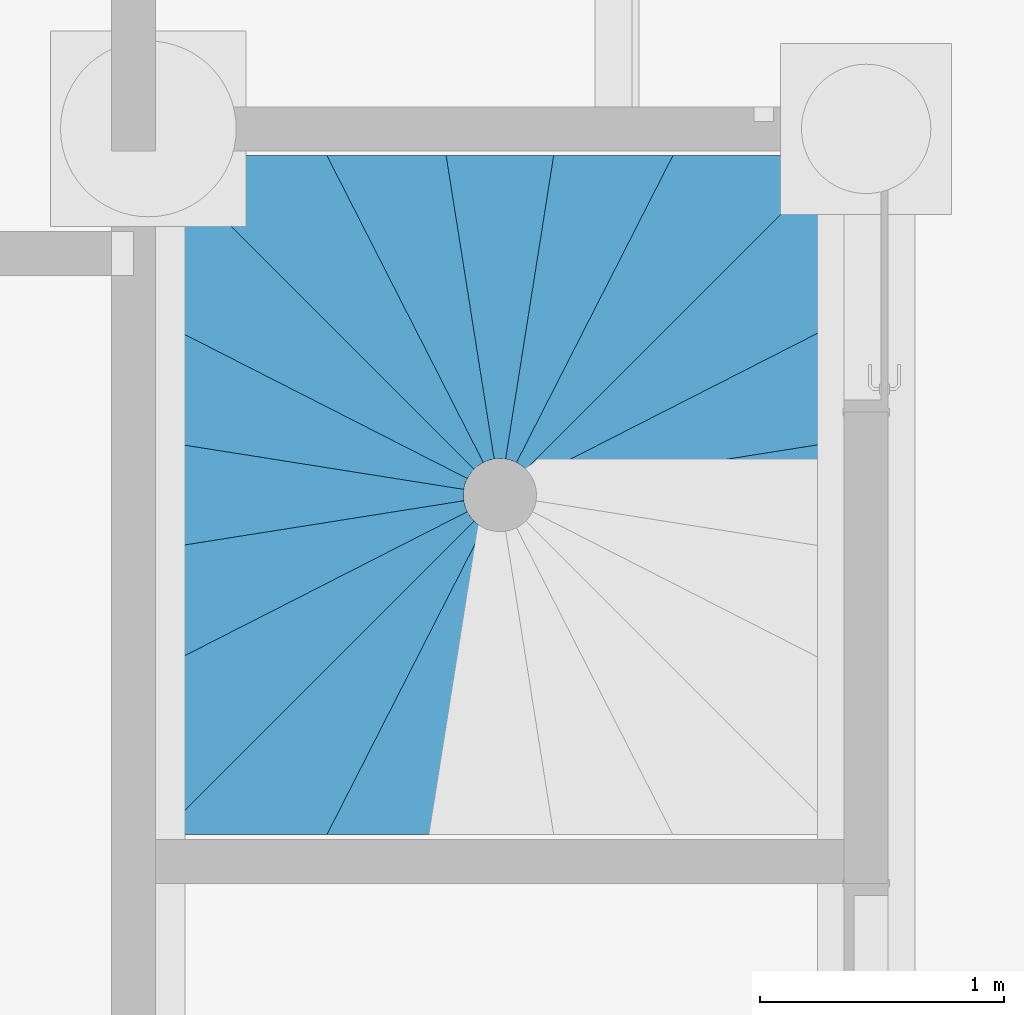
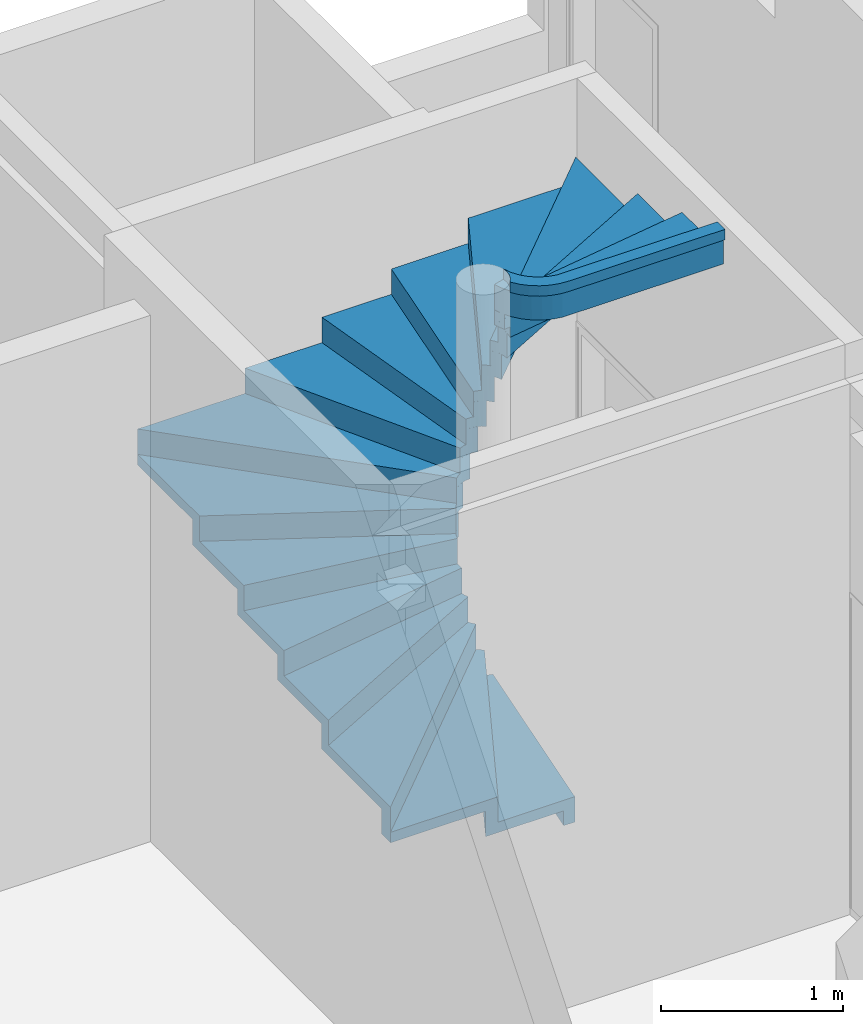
# One storey, part 17 of 29: 1 stair, 1 element without a shape of its own.
"""IFC2X3 building model written with IfcOpenShell, lengths in centimetres."""

from ifc_helpers import new_model, entity, si_unit, converted_unit, derived_unit, direction, frame, origin, place, context, subcontext, project, spatial, faceted_brep, material, element, aggregate, save


model = new_model("IFC2X3")

# Units and contexts
model_context = context("Model", 3, precision=0.001, world=origin(), true_north=direction((6.12303176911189e-17, 1.0)))
body_context = subcontext(model_context, "Body", "Model", "MODEL_VIEW")
ifc_project = project(units=[si_unit("LENGTHUNIT", "METRE", prefix="CENTI"), si_unit("AREAUNIT", "SQUARE_METRE"), si_unit("VOLUMEUNIT", "CUBIC_METRE"), converted_unit("PLANEANGLEUNIT", "DEGREE", entity("IfcRatioMeasure", 0.0174532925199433), si_unit("PLANEANGLEUNIT", "RADIAN"), dimensions=[0, 0, 0, 0, 0, 0, 0]), si_unit("MASSUNIT", "GRAM", prefix="KILO"), derived_unit("MASSDENSITYUNIT", [(si_unit("MASSUNIT", "GRAM", prefix="KILO"), 1), (si_unit("LENGTHUNIT", "METRE"), -3)]), si_unit("TIMEUNIT", "SECOND"), si_unit("FREQUENCYUNIT", "HERTZ"), si_unit("THERMODYNAMICTEMPERATUREUNIT", "DEGREE_CELSIUS"), derived_unit("THERMALTRANSMITTANCEUNIT", [(si_unit("MASSUNIT", "GRAM", prefix="KILO"), 1), (si_unit("THERMODYNAMICTEMPERATUREUNIT", "KELVIN"), -1), (si_unit("TIMEUNIT", "SECOND"), -3)]), derived_unit("VOLUMETRICFLOWRATEUNIT", [(si_unit("LENGTHUNIT", "METRE"), 3), (si_unit("TIMEUNIT", "SECOND"), -1)]), si_unit("ELECTRICCURRENTUNIT", "AMPERE"), si_unit("ELECTRICVOLTAGEUNIT", "VOLT"), si_unit("POWERUNIT", "WATT"), si_unit("FORCEUNIT", "NEWTON"), si_unit("ILLUMINANCEUNIT", "LUX"), si_unit("LUMINOUSFLUXUNIT", "LUMEN"), si_unit("LUMINOUSINTENSITYUNIT", "CANDELA"), derived_unit("USERDEFINED", [(si_unit("MASSUNIT", "GRAM", prefix="KILO"), -1), (si_unit("LENGTHUNIT", "METRE"), -2), (si_unit("TIMEUNIT", "SECOND"), 3), (si_unit("LUMINOUSFLUXUNIT", "LUMEN"), 1)]), derived_unit("LINEARVELOCITYUNIT", [(si_unit("LENGTHUNIT", "METRE"), 1), (si_unit("TIMEUNIT", "SECOND"), -1)]), si_unit("PRESSUREUNIT", "PASCAL"), derived_unit("USERDEFINED", [(si_unit("LENGTHUNIT", "METRE"), -2), (si_unit("MASSUNIT", "GRAM", prefix="KILO"), 1), (si_unit("TIMEUNIT", "SECOND"), -2)])], contexts=[model_context])

# Site, building, storey
site_placement = place(None, origin())
site = spatial("IfcSite", under=ifc_project, at=site_placement, Name="Default", CompositionType="ELEMENT")
building_placement = place(site_placement, origin())
building = spatial("IfcBuilding", under=site, at=building_placement, Name="CAGE 03", CompositionType="ELEMENT")
storey_placement = place(building_placement, frame((0.0, 0.0, -34.0)))
storey = spatial("IfcBuildingStorey", under=building, at=storey_placement, Name="+3.66", CompositionType="ELEMENT", Elevation=-34.0000000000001)

# Stairs
stair_1_placement = place(storey_placement, frame((3674.36582014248, 4652.66066607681, 102.0)))
stair_1 = element("IfcStair", 1, at=stair_1_placement, inside=storey, Name="Escalier:Monobloc-générique", ObjectType="Escalier:Monobloc-générique", ShapeType="NOTDEFINED")
ifc_material = material(Name="Béton, C25/30")
stair_2_placement = place(stair_1_placement, origin())
stair_2 = element("IfcStair", 2, at=stair_2_placement, material=ifc_material, Name="Escalier:Monobloc-générique", ObjectType="Escalier:Monobloc-générique", ShapeType="NOTDEFINED", context=body_context, shape_type="Brep", body=[
    faceted_brep([(126.73805787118, 130.360279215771, 17.0), (60.3161780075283, 0.0, 17.0), (116.98106104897, 0.0, 17.0), (136.650067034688, 124.1852163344, 17.0), (133.754783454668, 124.946968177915, 17.0), (131.06844442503, 126.268526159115, 17.0), (128.698060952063, 128.09724567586, 17.0), (133.754783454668, 124.946968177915, 10.0), (136.650067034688, 124.1852163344, 10.0), (116.98106104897, 0.0, 10.0), (60.3161780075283, 0.0, 10.0), (126.73805787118, 130.360279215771, 10.0), (128.698060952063, 128.09724567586, 10.0), (131.06844442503, 126.268526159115, 10.0)], [[[0, 1, 2, 3, 4, 5, 6]], [[7, 8, 9, 10, 11, 12, 13]], [[2, 1, 10, 9]], [[8, 7, 4, 3]], [[5, 4, 7, 13]], [[11, 0, 6, 12]], [[12, 6, 5, 13]], [[3, 2, 9, 8]], [[1, 0, 11, 10]]]),
    faceted_brep([(125.833440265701, 131.813783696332, 34.0), (124.668594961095, 134.571588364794, 34.0), (0.0, 9.90299340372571, 34.0), (0.0, 0.0, 34.0), (68.1724616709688, 0.0, 34.0), (132.187363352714, 125.636318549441, 34.0), (129.669219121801, 127.255361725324, 34.0), (127.522744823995, 129.342225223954, 34.0), (0.0, 0.0, 27.0), (0.0, 9.90299340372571, 27.0), (124.668594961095, 134.571588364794, 27.0), (125.833440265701, 131.813783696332, 27.0), (127.522744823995, 129.342225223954, 27.0), (129.669219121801, 127.255361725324, 27.0), (132.187363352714, 125.636318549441, 27.0), (68.1724616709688, 0.0, 27.0)], [[[0, 1, 2, 3, 4, 5, 6, 7]], [[8, 9, 10, 11, 12, 13, 14, 15]], [[4, 3, 8, 15]], [[14, 13, 6, 5]], [[7, 6, 13, 12]], [[11, 10, 1, 0]], [[11, 0, 7, 12]], [[5, 4, 15, 14]], [[2, 1, 10, 9]], [[3, 2, 9, 8]]]),
    faceted_brep([(124.257363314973, 136.233293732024, 51.0), (124.001554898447, 139.215973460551, 51.0), (0.0, 76.0340254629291, 51.0), (0.0, 0.003498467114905, 51.0), (128.3916491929, 128.395147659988, 51.0), (126.497013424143, 130.712942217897, 51.0), (125.100375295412, 133.360812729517, 51.0), (0.0, 0.003498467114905, 44.0), (0.0, 76.0340254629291, 44.0), (124.001554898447, 139.215973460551, 44.0), (124.257363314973, 136.233293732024, 44.0), (125.100375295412, 133.360812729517, 44.0), (126.497013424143, 130.712942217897, 44.0), (128.3916491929, 128.395147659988, 44.0)], [[[0, 1, 2, 3, 4, 5, 6]], [[7, 8, 9, 10, 11, 12, 13]], [[13, 12, 5, 4]], [[6, 5, 12, 11]], [[10, 9, 1, 0]], [[10, 0, 6, 11]], [[4, 3, 7, 13]], [[3, 2, 8, 7]], [[2, 1, 9, 8]]]),
    faceted_brep([(124.12644320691, 140.943529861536, 68.0), (124.810773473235, 143.864755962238, 68.0), (0.0, 124.09667145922, 68.0), (0.0, 68.1777417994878, 68.0), (125.634182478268, 132.191555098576, 68.0), (124.546551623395, 134.987789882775, 68.0), (124.037178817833, 137.944546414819, 68.0), (0.0, 68.1777417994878, 61.0), (0.0, 124.09667145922, 61.0), (124.810773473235, 143.864755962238, 61.0), (124.12644320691, 140.943529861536, 61.0), (124.037178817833, 137.944546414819, 61.0), (124.546551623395, 134.987789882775, 61.0), (125.634182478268, 132.191555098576, 61.0)], [[[0, 1, 2, 3, 4, 5, 6]], [[7, 8, 9, 10, 11, 12, 13]], [[3, 2, 8, 7]], [[13, 12, 5, 4]], [[6, 5, 12, 11]], [[10, 9, 1, 0]], [[10, 0, 6, 11]], [[4, 3, 7, 13]], [[2, 1, 9, 8]]]),
    faceted_brep([(0.0, 168.102128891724, 85.0), (0.0, 117.009415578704, 85.0), (124.180854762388, 136.677730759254, 85.0), (124.014554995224, 139.660634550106, 85.0), (124.442702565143, 142.617332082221, 85.0), (125.448313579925, 145.430536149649, 85.0), (126.991497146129, 147.988651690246, 85.0), (0.0, 117.009415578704, 78.0), (0.0, 168.102128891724, 78.0), (126.991497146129, 147.988651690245, 78.0), (125.448313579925, 145.430536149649, 78.0), (124.442702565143, 142.617332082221, 78.0), (124.014554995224, 139.660634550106, 78.0), (124.180854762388, 136.677730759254, 78.0)], [[[0, 1, 2, 3, 4, 5, 6]], [[7, 8, 9, 10, 11, 12, 13]], [[1, 0, 8, 7]], [[13, 12, 3, 2]], [[4, 3, 12, 11]], [[10, 9, 6, 5]], [[10, 5, 4, 11]], [[2, 1, 7, 13]], [[0, 6, 9, 8]]]),
    faceted_brep([(130.355916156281, 151.25886677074, 102.0), (0.0, 217.678523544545, 102.0), (0.0, 161.014873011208, 102.0), (124.184587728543, 141.345966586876, 102.0), (124.945448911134, 144.241144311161, 102.0), (126.266053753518, 146.927585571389, 102.0), (128.093807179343, 149.29829879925, 102.0), (124.945448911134, 144.241144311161, 95.0), (124.184587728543, 141.345966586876, 95.0), (0.0, 161.014873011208, 95.0), (0.0, 217.678523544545, 95.0), (130.355916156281, 151.25886677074, 95.0), (128.093807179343, 149.29829879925, 95.0), (126.266053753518, 146.927585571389, 95.0)], [[[0, 1, 2, 3, 4, 5, 6]], [[7, 8, 9, 10, 11, 12, 13]], [[2, 1, 10, 9]], [[8, 7, 4, 3]], [[5, 4, 7, 13]], [[12, 11, 0, 6]], [[12, 6, 5, 13]], [[3, 2, 9, 8]], [[1, 0, 11, 10]]]),
    faceted_brep([(131.810906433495, 152.164988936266, 119.0), (134.568915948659, 153.330578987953, 119.0), (9.89949493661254, 278.0, 119.0), (0.0, 278.0, 119.0), (0.0, 209.822239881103, 119.0), (125.634175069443, 145.808430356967, 119.0), (127.252724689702, 148.327460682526, 119.0), (129.339349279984, 150.474834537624, 119.0), (0.0, 278.0, 112.0), (9.89949493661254, 278.0, 112.0), (134.568915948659, 153.330578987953, 112.0), (131.810906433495, 152.164988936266, 112.0), (129.339349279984, 150.474834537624, 112.0), (127.252724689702, 148.327460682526, 112.0), (125.634175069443, 145.808430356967, 112.0), (0.0, 209.822239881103, 112.0)], [[[0, 1, 2, 3, 4, 5, 6, 7]], [[8, 9, 10, 11, 12, 13, 14, 15]], [[4, 3, 8, 15]], [[14, 13, 6, 5]], [[7, 6, 13, 12]], [[11, 10, 1, 0]], [[0, 7, 12, 11]], [[5, 4, 15, 14]], [[3, 2, 9, 8]], [[2, 1, 10, 9]]]),
    faceted_brep([(136.22875146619, 153.741783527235, 136.0), (139.210636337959, 153.998521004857, 136.0), (76.0287270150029, 278.0, 136.0), (0.0, 278.0, 136.0), (128.393398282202, 149.606601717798, 136.0), (130.710283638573, 151.501224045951, 136.0), (133.357193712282, 152.898155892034, 136.0), (0.0, 278.0, 129.0), (76.0287270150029, 278.0, 129.0), (139.210636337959, 153.998521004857, 129.0), (136.22875146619, 153.741783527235, 129.0), (133.357193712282, 152.898155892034, 129.0), (130.710283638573, 151.501224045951, 129.0), (128.393398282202, 149.606601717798, 129.0)], [[[0, 1, 2, 3, 4, 5, 6]], [[7, 8, 9, 10, 11, 12, 13]], [[13, 12, 5, 4]], [[6, 5, 12, 11]], [[10, 9, 1, 0]], [[0, 6, 11, 10]], [[3, 2, 8, 7]], [[2, 1, 9, 8]], [[4, 3, 7, 13]]]),
    faceted_brep([(140.918784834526, 153.876769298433, 153.0), (143.834761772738, 153.199474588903, 153.0), (124.068300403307, 278.0, 153.0), (68.1724433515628, 278.0, 153.0), (132.18734881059, 152.363674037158, 153.0), (134.976743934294, 153.45037752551, 153.0), (137.926383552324, 153.961528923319, 153.0), (68.1724433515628, 278.0, 146.0), (124.068300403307, 278.0, 146.0), (143.834761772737, 153.199474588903, 146.0), (140.918784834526, 153.876769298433, 146.0), (137.926383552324, 153.961528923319, 146.0), (134.976743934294, 153.45037752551, 146.0), (132.18734881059, 152.363674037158, 146.0)], [[[0, 1, 2, 3, 4, 5, 6]], [[7, 8, 9, 10, 11, 12, 13]], [[3, 2, 8, 7]], [[13, 12, 5, 4]], [[6, 5, 12, 11]], [[9, 1, 0, 10]], [[0, 6, 11, 10]], [[4, 3, 7, 13]], [[2, 1, 9, 8]]]),
    faceted_brep([(168.09917481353, 278.0, 170.0), (116.981044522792, 278.0, 170.0), (136.650050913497, 153.814781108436, 170.0), (139.638814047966, 153.986391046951, 170.0), (142.602132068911, 153.561066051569, 170.0), (145.421970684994, 152.555747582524, 170.0), (147.986010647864, 151.010479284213, 170.0), (116.981044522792, 278.0, 163.0), (168.09917481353, 278.0, 163.0), (147.986010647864, 151.010479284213, 163.0), (145.421970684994, 152.555747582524, 163.0), (142.602132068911, 153.561066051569, 163.0), (139.638814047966, 153.986391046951, 163.0), (136.650050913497, 153.814781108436, 163.0)], [[[0, 1, 2, 3, 4, 5, 6]], [[7, 8, 9, 10, 11, 12, 13]], [[1, 0, 8, 7]], [[13, 12, 3, 2]], [[4, 3, 12, 11]], [[9, 6, 5, 10]], [[5, 4, 11, 10]], [[2, 1, 7, 13]], [[0, 6, 9, 8]]]),
    faceted_brep([(151.25786731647, 147.645501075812, 187.0), (217.676801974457, 278.0, 187.0), (161.011918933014, 278.0, 187.0), (141.343084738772, 153.815868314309, 187.0), (144.238687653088, 153.055466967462, 187.0), (146.925610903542, 151.735175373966, 187.0), (149.29682267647, 149.90758647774, 187.0), (144.238687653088, 153.055466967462, 180.0), (141.343084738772, 153.815868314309, 180.0), (161.011918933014, 278.0, 180.0), (217.676801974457, 278.0, 180.0), (151.257867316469, 147.645501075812, 180.0), (149.29682267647, 149.90758647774, 180.0), (146.925610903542, 151.735175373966, 180.0)], [[[0, 1, 2, 3, 4, 5, 6]], [[7, 8, 9, 10, 11, 12, 13]], [[2, 1, 10, 9]], [[8, 7, 4, 3]], [[5, 4, 7, 13]], [[11, 0, 6, 12]], [[6, 5, 13, 12]], [[3, 2, 9, 8]], [[1, 0, 11, 10]]]),
    faceted_brep([(287.895973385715, 278.0, 204.0), (209.820518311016, 278.0, 204.0), (145.807063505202, 152.366521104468, 204.0), (148.326008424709, 150.748428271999, 204.0), (150.473433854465, 148.662314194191, 204.0), (152.163792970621, 146.19128323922, 204.0), (153.329747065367, 143.433773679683, 204.0), (148.326008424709, 150.748428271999, 197.0), (145.807063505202, 152.366521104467, 197.0), (209.820518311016, 278.0, 197.0), (287.895973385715, 278.0, 197.0), (153.329747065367, 143.433773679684, 197.0), (152.163792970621, 146.19128323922, 197.0), (150.473433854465, 148.662314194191, 197.0)], [[[0, 1, 2, 3, 4, 5, 6]], [[7, 8, 9, 10, 11, 12, 13]], [[1, 0, 10, 9]], [[8, 7, 3, 2]], [[4, 3, 7, 13]], [[11, 6, 5, 12]], [[13, 12, 5, 4]], [[2, 1, 9, 8]], [[0, 6, 11, 10]]]),
    faceted_brep([(153.74190879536, 141.770582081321, 221.0), (153.998496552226, 138.78762963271, 221.0), (278.0, 201.969551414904, 221.0), (278.0, 278.003521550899, 221.0), (149.604840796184, 149.608362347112, 221.0), (151.500431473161, 147.290911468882, 221.0), (152.89801370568, 144.643156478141, 221.0), (278.0, 278.003521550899, 214.0), (278.0, 201.969551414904, 214.0), (153.998496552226, 138.78762963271, 214.0), (153.74190879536, 141.770582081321, 214.0), (152.89801370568, 144.643156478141, 214.0), (151.500431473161, 147.290911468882, 214.0), (149.604840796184, 149.608362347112, 214.0)], [[[0, 1, 2, 3, 4, 5, 6]], [[7, 8, 9, 10, 11, 12, 13]], [[3, 2, 8, 7]], [[13, 12, 5, 4]], [[6, 5, 12, 11]], [[9, 1, 0, 10]], [[11, 10, 0, 6]], [[4, 3, 7, 13]], [[2, 1, 9, 8]]]),
    faceted_brep([(153.87378070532, 137.058184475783, 238.0), (153.189629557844, 134.136419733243, 238.0), (278.0, 153.904440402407, 238.0), (278.0, 209.825835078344, 238.0), (152.364370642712, 145.811284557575, 238.0), (153.452725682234, 143.014812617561, 238.0), (153.962665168, 140.05766302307, 238.0), (278.0, 209.825835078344, 231.0), (278.0, 153.904440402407, 231.0), (153.189629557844, 134.136419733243, 231.0), (153.87378070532, 137.058184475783, 231.0), (153.962665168, 140.05766302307, 231.0), (153.452725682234, 143.014812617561, 231.0), (152.364370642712, 145.811284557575, 231.0)], [[[0, 1, 2, 3, 4, 5, 6]], [[7, 8, 9, 10, 11, 12, 13]], [[3, 2, 8, 7]], [[13, 12, 5, 4]], [[6, 5, 12, 11]], [[9, 1, 0, 10]], [[11, 10, 0, 6]], [[4, 3, 7, 13]], [[2, 1, 9, 8]]]),
    faceted_brep([(146.931732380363, 140.232522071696, 255.0), (148.922179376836, 134.81848854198, 255.0), (151.796820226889, 129.817480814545, 255.0), (155.47337428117, 125.372642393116, 255.0), (159.846607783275, 121.611197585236, 255.0), (164.791345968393, 118.64080996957, 255.0), (170.166055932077, 116.546500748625, 255.0), (175.816897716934, 115.388215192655, 255.0), (278.0, 115.388215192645, 255.0), (278.0, 160.991696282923, 255.0), (146.931732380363, 140.232522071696, 248.0), (278.0, 160.991696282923, 248.0), (278.0, 115.388215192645, 248.0), (175.816897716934, 115.388215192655, 248.0), (170.166055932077, 116.546500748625, 248.0), (164.791345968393, 118.64080996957, 248.0), (159.846607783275, 121.611197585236, 248.0), (155.47337428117, 125.372642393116, 248.0), (151.796820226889, 129.817480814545, 248.0), (148.922179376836, 134.81848854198, 248.0)], [[[0, 1, 2, 3, 4, 5, 6, 7, 8, 9]], [[10, 11, 12, 13, 14, 15, 16, 17, 18, 19]], [[9, 8, 12, 11]], [[0, 9, 11, 10]], [[1, 0, 10, 19]], [[18, 17, 3, 2]], [[1, 19, 18, 2]], [[17, 16, 4, 3]], [[4, 16, 15, 5]], [[5, 15, 14, 6]], [[6, 14, 13, 7]], [[8, 7, 13, 12]]]),
    faceted_brep([(178.92758269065, 114.005850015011, 272.0), (278.0, 114.005850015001, 272.0), (278.0, 122.388215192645, 272.0), (176.252275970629, 122.388215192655, 272.0), (171.101498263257, 123.59191749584, 272.0), (166.282738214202, 125.773421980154, 272.0), (161.979645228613, 128.849588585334, 272.0), (158.356215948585, 132.703180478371, 272.0), (155.550544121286, 137.187332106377, 272.0), (153.669557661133, 142.131146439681, 272.0), (153.998064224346, 138.759023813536, 272.0), (153.561394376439, 135.399195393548, 272.0), (152.381826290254, 132.223074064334, 272.0), (150.519539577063, 129.392700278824, 272.0), (153.959806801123, 124.966638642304, 272.0), (158.082113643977, 121.167685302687, 272.0), (162.77385189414, 118.099615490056, 272.0), (167.906858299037, 115.846239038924, 272.0), (173.340915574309, 114.469110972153, 272.0), (155.550544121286, 137.187332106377, 265.0), (158.356215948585, 132.703180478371, 265.0), (161.979645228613, 128.849588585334, 265.0), (166.282738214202, 125.773421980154, 265.0), (171.101498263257, 123.59191749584, 265.0), (176.252275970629, 122.388215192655, 265.0), (278.0, 122.388215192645, 265.0), (278.0, 114.005850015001, 265.0), (178.92758269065, 114.00585001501, 265.0), (173.340915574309, 114.469110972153, 265.0), (167.906858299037, 115.846239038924, 265.0), (162.77385189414, 118.099615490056, 265.0), (158.082113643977, 121.167685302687, 265.0), (153.959806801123, 124.966638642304, 265.0), (150.519539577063, 129.392700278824, 265.0), (152.381826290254, 132.223074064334, 265.0), (153.561394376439, 135.399195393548, 265.0), (153.998064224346, 138.759023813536, 265.0), (153.669557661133, 142.13114643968, 265.0)], [[[0, 1, 2, 3, 4, 5, 6, 7, 8, 9, 10, 11, 12, 13, 14, 15, 16, 17, 18]], [[19, 20, 21, 22, 23, 24, 25, 26, 27, 28, 29, 30, 31, 32, 33, 34, 35, 36, 37]], [[2, 1, 26, 25]], [[4, 3, 24, 23]], [[5, 4, 23, 22]], [[21, 6, 5, 22]], [[8, 7, 20, 19]], [[9, 8, 19, 37]], [[20, 7, 6, 21]], [[3, 2, 25, 24]], [[37, 36, 10, 9]], [[11, 10, 36, 35]], [[33, 13, 12, 34]], [[35, 34, 12, 11]], [[33, 32, 14, 13]], [[31, 15, 14, 32]], [[16, 15, 31, 30]], [[17, 29, 28, 18]], [[18, 28, 27, 0]], [[16, 30, 29, 17]], [[1, 0, 27, 26]]]),
    faceted_brep([(136.650067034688, 124.1852163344, 0.0), (133.157559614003, 125.184577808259, 0.0), (133.157559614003, 125.184577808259, 10.0), (136.650067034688, 124.1852163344, 10.0), (130.007713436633, 126.99421879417, 0.0), (130.007713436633, 126.99421879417, 10.0), (116.98106104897, 0.0, 10.0), (109.893805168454, 0.0, 10.0), (109.893805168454, 0.0, 0.0), (116.98106104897, 0.0, 0.0)], [[[0, 1, 2, 3]], [[4, 5, 2, 1]], [[6, 7, 8, 9]], [[0, 3, 6, 9]], [[4, 1, 0, 9, 8]], [[5, 4, 8, 7]], [[2, 5, 7, 6, 3]]]),
    faceted_brep([(132.187363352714, 125.636318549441, 17.0), (129.174581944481, 127.665929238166, 17.0), (129.174581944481, 127.665929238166, 27.0), (132.187363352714, 125.636318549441, 27.0), (126.73805787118, 130.360279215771, 17.0), (126.73805787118, 130.360279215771, 27.0), (68.1724616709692, 0.0, 27.0), (60.3161780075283, 0.0, 27.0), (60.3161780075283, 0.0, 17.0), (68.1724616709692, 0.0, 17.0)], [[[0, 1, 2, 3]], [[4, 5, 2, 1]], [[6, 7, 8, 9]], [[0, 3, 6, 9]], [[4, 1, 0, 9, 8]], [[5, 4, 8, 7]], [[2, 5, 7, 6, 3]]]),
    faceted_brep([(128.3916491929, 128.395147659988, 34.0), (126.15340666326, 131.256290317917, 34.0), (126.15340666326, 131.256290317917, 44.0), (128.3916491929, 128.395147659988, 44.0), (124.668594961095, 134.571588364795, 34.0), (124.668594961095, 134.571588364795, 44.0), (0.0, 9.90299340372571, 44.0), (0.0, 9.90299340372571, 34.0), (0.0, 0.003498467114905, 34.0), (0.0, 0.003498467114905, 44.0)], [[[0, 1, 2, 3]], [[4, 5, 2, 1]], [[6, 7, 8, 9]], [[0, 3, 9, 8]], [[4, 1, 0, 8, 7]], [[5, 4, 7, 6]], [[2, 5, 6, 9, 3]]]),
    faceted_brep([(125.634182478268, 132.191555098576, 51.0), (124.38944005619, 135.604188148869, 51.0), (124.38944005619, 135.604188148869, 61.0), (125.634182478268, 132.191555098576, 61.0), (124.001554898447, 139.215973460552, 51.0), (124.001554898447, 139.215973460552, 61.0), (0.0, 76.0340254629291, 61.0), (0.0, 76.0340254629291, 51.0), (0.0, 68.1777417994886, 51.0), (0.0, 68.1777417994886, 61.0)], [[[0, 1, 2, 3]], [[4, 5, 2, 1]], [[6, 7, 8, 9]], [[0, 3, 9, 8]], [[4, 1, 0, 8, 7]], [[5, 4, 7, 6]], [[2, 5, 6, 9, 3]]]),
    faceted_brep([(124.180854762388, 136.677730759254, 68.0), (124.057284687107, 140.309678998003, 68.0), (124.057284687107, 140.309678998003, 78.0), (124.180854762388, 136.677730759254, 78.0), (124.810773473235, 143.864755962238, 68.0), (124.810773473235, 143.864755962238, 78.0), (0.0, 124.09667145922, 78.0), (0.0, 124.09667145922, 68.0), (0.0, 117.009415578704, 68.0), (0.0, 117.009415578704, 78.0)], [[[0, 1, 2, 3]], [[4, 5, 2, 1]], [[6, 7, 8, 9]], [[0, 3, 9, 8]], [[4, 1, 0, 8, 7]], [[5, 4, 7, 6]], [[2, 5, 6, 9, 3]]]),
    faceted_brep([(124.184587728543, 141.345966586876, 85.0), (125.182911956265, 144.838499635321, 85.0), (125.182911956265, 144.838499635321, 95.0), (124.184587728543, 141.345966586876, 95.0), (126.991497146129, 147.988651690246, 85.0), (126.991497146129, 147.988651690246, 95.0), (0.0, 168.102128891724, 95.0), (0.0, 168.102128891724, 85.0), (0.0, 161.014873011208, 85.0), (0.0, 161.014873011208, 95.0)], [[[0, 1, 2, 3]], [[4, 5, 2, 1]], [[6, 7, 8, 9]], [[0, 3, 9, 8]], [[4, 1, 0, 8, 7]], [[5, 4, 7, 6]], [[2, 5, 6, 9, 3]]]),
    faceted_brep([(125.634175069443, 145.808430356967, 102.0), (127.662635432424, 148.821617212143, 102.0), (127.662635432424, 148.821617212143, 112.0), (125.634175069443, 145.808430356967, 112.0), (130.355916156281, 151.25886677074, 102.0), (130.355916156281, 151.25886677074, 112.0), (0.0, 217.678523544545, 112.0), (0.0, 217.678523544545, 102.0), (0.0, 209.822239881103, 102.0), (0.0, 209.822239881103, 112.0)], [[[0, 1, 2, 3]], [[4, 5, 2, 1]], [[6, 7, 8, 9]], [[0, 3, 9, 8]], [[4, 1, 0, 8, 7]], [[5, 4, 7, 6]], [[2, 5, 6, 9, 3]]]),
    faceted_brep([(132.18734881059, 152.363674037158, 136.0), (135.599289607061, 153.609420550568, 136.0), (135.599289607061, 153.609420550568, 146.0), (132.18734881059, 152.363674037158, 146.0), (139.210636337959, 153.998521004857, 136.0), (139.210636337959, 153.998521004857, 146.0), (76.0287270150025, 278.0, 136.0), (68.1724433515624, 278.0, 136.0), (68.1724433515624, 278.0, 146.0), (76.0287270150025, 278.0, 146.0)], [[[0, 1, 2, 3]], [[4, 5, 2, 1]], [[6, 7, 8, 9]], [[0, 3, 8, 7]], [[4, 1, 0, 7, 6]], [[5, 4, 6, 9]], [[2, 5, 9, 8, 3]]]),
    faceted_brep([(136.650050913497, 153.814781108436, 153.0), (140.279931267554, 153.945292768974, 153.0), (140.279931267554, 153.945292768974, 163.0), (136.650050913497, 153.814781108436, 163.0), (143.834761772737, 153.199474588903, 153.0), (143.834761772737, 153.199474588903, 163.0), (124.068300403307, 278.0, 153.0), (116.981044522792, 278.0, 153.0), (116.981044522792, 278.0, 163.0), (124.068300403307, 278.0, 163.0)], [[[0, 1, 2, 3]], [[4, 5, 2, 1]], [[6, 7, 8, 9]], [[0, 3, 8, 7]], [[4, 1, 0, 7, 6]], [[5, 4, 6, 9]], [[2, 5, 9, 8, 3]]]),
    faceted_brep([(141.343084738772, 153.815868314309, 170.0), (144.835636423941, 152.818297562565, 170.0), (144.835636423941, 152.818297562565, 180.0), (141.343084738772, 153.815868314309, 180.0), (147.986010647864, 151.010479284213, 170.0), (147.986010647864, 151.010479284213, 180.0), (168.09917481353, 278.0, 170.0), (161.011918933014, 278.0, 170.0), (161.011918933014, 278.0, 180.0), (168.09917481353, 278.0, 180.0)], [[[0, 1, 2, 3]], [[4, 5, 2, 1]], [[6, 7, 8, 9]], [[0, 3, 8, 7]], [[4, 1, 0, 7, 6]], [[5, 4, 6, 9]], [[2, 5, 9, 8, 3]]]),
    faceted_brep([(145.807063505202, 152.366521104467, 187.0), (148.820382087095, 150.338434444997, 187.0), (148.820382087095, 150.338434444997, 197.0), (145.807063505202, 152.366521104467, 197.0), (151.25786731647, 147.645501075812, 187.0), (151.25786731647, 147.645501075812, 197.0), (217.676801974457, 278.0, 187.0), (209.820518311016, 278.0, 187.0), (209.820518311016, 278.0, 197.0), (217.676801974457, 278.0, 197.0)], [[[0, 1, 2, 3]], [[4, 5, 2, 1]], [[6, 7, 8, 9]], [[0, 3, 8, 7]], [[4, 1, 0, 7, 6]], [[5, 4, 6, 9]], [[2, 5, 9, 8, 3]]]),
    faceted_brep([(149.604840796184, 149.608362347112, 204.0), (151.843862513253, 146.748238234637, 204.0), (151.843862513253, 146.748238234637, 214.0), (149.604840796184, 149.608362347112, 214.0), (153.329747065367, 143.433773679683, 204.0), (153.329747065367, 143.433773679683, 214.0), (278.0, 268.104026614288, 214.0), (278.0, 268.104026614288, 204.0), (278.0, 278.003521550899, 204.0), (278.0, 278.003521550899, 214.0)], [[[0, 1, 2, 3]], [[4, 5, 2, 1]], [[6, 7, 8, 9]], [[0, 3, 9, 8]], [[4, 1, 0, 8, 7]], [[5, 4, 7, 6]], [[2, 5, 6, 9, 3]]]),
    faceted_brep([(152.364370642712, 145.811284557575, 221.0), (153.609790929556, 142.399118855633, 221.0), (153.609790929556, 142.399118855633, 231.0), (152.364370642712, 145.811284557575, 231.0), (153.998496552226, 138.78762963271, 221.0), (153.998496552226, 138.78762963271, 231.0), (278.0, 201.969551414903, 231.0), (278.0, 201.969551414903, 221.0), (278.0, 209.825835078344, 221.0), (278.0, 209.825835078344, 231.0)], [[[0, 1, 2, 3]], [[4, 5, 2, 1]], [[6, 7, 8, 9]], [[0, 3, 9, 8]], [[4, 1, 0, 8, 7]], [[5, 4, 7, 6]], [[2, 5, 6, 9, 3]]]),
    faceted_brep([(146.931732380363, 140.232522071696, 238.0), (148.061306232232, 136.826865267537, 238.0), (148.061306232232, 136.826865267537, 248.0), (146.931732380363, 140.232522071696, 248.0), (149.542531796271, 133.558776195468, 238.0), (149.542531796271, 133.558776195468, 248.0), (278.0, 153.904440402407, 248.0), (278.0, 153.904440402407, 238.0), (278.0, 160.991696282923, 238.0), (278.0, 160.991696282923, 248.0)], [[[0, 1, 2, 3]], [[2, 1, 4, 5]], [[6, 7, 8, 9]], [[0, 3, 9, 8]], [[1, 0, 8, 7, 4]], [[5, 4, 7, 6]], [[3, 2, 5, 6, 9]]]),
    faceted_brep([(153.669557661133, 142.131146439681, 265.0), (153.669557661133, 142.131146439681, 255.0), (146.915367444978, 140.292420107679, 255.0), (146.915367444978, 140.292420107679, 265.0), (155.550544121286, 137.187332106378, 255.0), (155.550544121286, 137.187332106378, 265.0), (158.356215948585, 132.703180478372, 255.0), (158.356215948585, 132.703180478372, 265.0), (161.979645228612, 128.849588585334, 255.0), (161.979645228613, 128.849588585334, 265.0), (171.101498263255, 123.591917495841, 255.0), (166.282738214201, 125.773421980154, 255.0), (166.282738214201, 125.773421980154, 265.0), (171.101498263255, 123.591917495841, 265.0), (176.252275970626, 122.388215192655, 255.0), (176.252275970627, 122.388215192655, 265.0), (176.13861118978, 120.638511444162, 255.0), (176.028345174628, 118.888595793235, 255.0), (170.157548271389, 116.549011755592, 255.0), (164.775421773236, 118.64863056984, 255.0), (278.0, 115.388215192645, 255.0), (278.0, 122.388215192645, 255.0), (175.921190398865, 117.138490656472, 255.0), (175.81689771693, 115.388215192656, 255.0), (159.825042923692, 121.626790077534, 255.0), (155.44854064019, 125.397985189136, 255.0), (151.771567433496, 129.853942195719, 255.0), (148.899691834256, 134.86672738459, 255.0), (148.899691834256, 134.86672738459, 265.0), (151.771567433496, 129.853942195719, 265.0), (155.448540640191, 125.397985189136, 265.0), (159.825042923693, 121.626790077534, 265.0), (164.775421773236, 118.64863056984, 265.0), (170.15754827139, 116.549011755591, 265.0), (175.816897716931, 115.388215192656, 265.0), (176.13861118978, 120.638511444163, 265.0), (176.028345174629, 118.888595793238, 265.0), (278.0, 115.388215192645, 265.0), (175.921190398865, 117.138490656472, 265.0), (278.0, 122.388215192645, 265.0)], [[[0, 1, 2, 3]], [[4, 1, 0, 5]], [[6, 4, 5, 7]], [[8, 6, 7, 9]], [[10, 11, 12, 13]], [[14, 10, 13, 15]], [[12, 11, 8, 9]], [[10, 14, 16]], [[17, 10, 16]], [[17, 18, 10]], [[19, 10, 18]], [[10, 19, 11]], [[20, 16, 14]], [[14, 21, 20]], [[20, 22, 17]], [[20, 23, 22]], [[16, 20, 17]], [[17, 22, 18]], [[23, 18, 22]], [[24, 11, 19]], [[11, 24, 8]], [[24, 25, 8]], [[25, 6, 8]], [[26, 6, 25]], [[26, 4, 6]], [[26, 27, 4]], [[27, 1, 4]], [[1, 27, 2]], [[3, 2, 27, 28]], [[28, 27, 26, 29]], [[30, 29, 26, 25]], [[25, 24, 31, 30]], [[32, 31, 24, 19]], [[33, 32, 19, 18]], [[34, 33, 18, 23]], [[35, 15, 13]], [[35, 13, 36]], [[35, 37, 15]], [[37, 35, 36]], [[13, 33, 36]], [[33, 38, 36]], [[38, 37, 36]], [[37, 38, 34]], [[39, 15, 37]], [[33, 13, 32]], [[12, 32, 13]], [[32, 12, 31]], [[9, 31, 12]], [[9, 30, 31]], [[9, 7, 30]], [[30, 7, 29]], [[7, 5, 29]], [[5, 28, 29]], [[5, 0, 28]], [[3, 28, 0]], [[38, 33, 34]], [[37, 20, 21, 39]], [[14, 15, 39, 21]], [[34, 23, 20, 37]]]),
    faceted_brep([(128.393398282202, 149.606601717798, 119.0), (131.254033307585, 151.845232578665, 119.0), (131.254033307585, 151.845232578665, 129.0), (128.393398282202, 149.606601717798, 129.0), (134.568915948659, 153.330578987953, 119.0), (134.568915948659, 153.330578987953, 129.0), (9.89949493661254, 278.0, 119.0), (0.0, 278.0, 119.0), (0.0, 278.0, 129.0), (9.89949493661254, 278.0, 129.0)], [[[0, 1, 2, 3]], [[4, 5, 2, 1]], [[6, 7, 8, 9]], [[0, 3, 8, 7]], [[4, 1, 0, 7, 6]], [[5, 4, 6, 9]], [[2, 5, 9, 8, 3]]]),
])
aggregate(stair_1, [stair_2])

save(model, "model.ifc")
